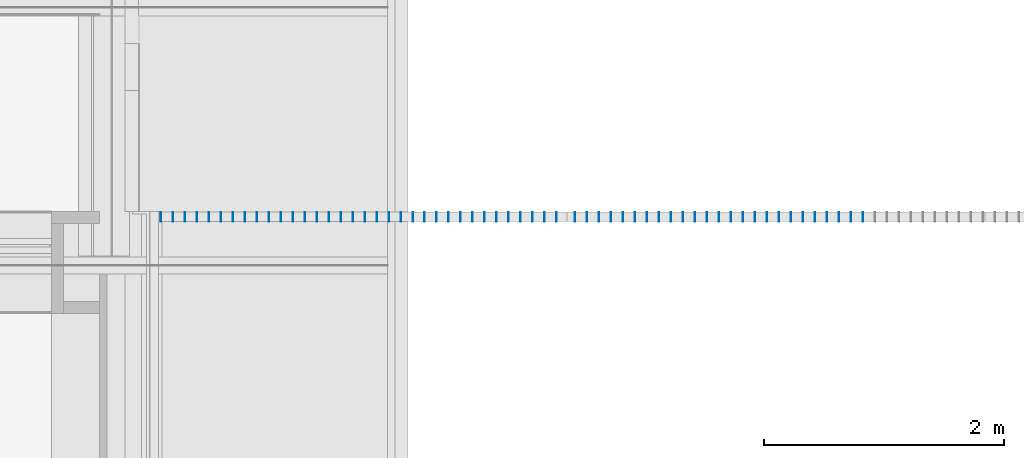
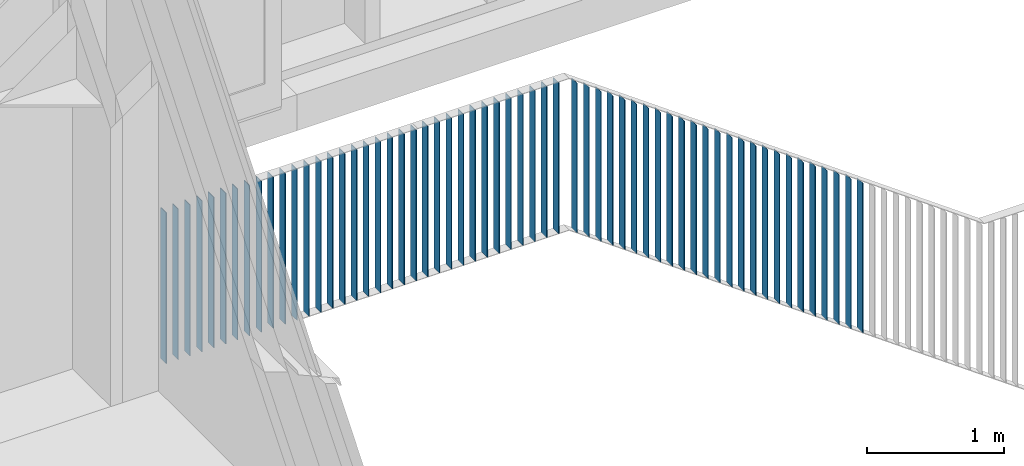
# One storey, part 1 of 260: 59 members, 1 element without a shape of its own.
"""IFC2X3 building model written with IfcOpenShell, lengths in millimetres."""

from ifc_helpers import new_model, entity, si_unit, converted_unit, derived_unit, money_unit, direction, frame, origin_with_axes, place, context, subcontext, project, spatial, faceted_brep, source, transform, mapped, material, type_object, type_shapes, element, aggregate, save


model = new_model("IFC2X3")

# Units and contexts
model_context = context("Model", 3, precision=0.01, world=origin_with_axes(), true_north=direction((0.0, 1.0)))
plan_context = context("Plan", 3, precision=0.01, world=origin_with_axes(), true_north=direction((0.0, 1.0)))
body_context = subcontext(model_context, "Body", "Model", "MODEL_VIEW")
ifc_project = project(units=[si_unit("LENGTHUNIT", "METRE", prefix="MILLI"), si_unit("AREAUNIT", "SQUARE_METRE"), si_unit("VOLUMEUNIT", "CUBIC_METRE"), converted_unit("PLANEANGLEUNIT", "DEGREE", entity("IfcPlaneAngleMeasure", 0.0174532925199), si_unit("PLANEANGLEUNIT", "RADIAN"), dimensions=[0, 0, 0, 0, 0, 0, 0]), money_unit("EUR"), converted_unit("TIMEUNIT", "Year", entity("IfcTimeMeasure", 31556926.0), si_unit("TIMEUNIT", "SECOND"), dimensions=[0, 0, 1, 0, 0, 0, 0]), si_unit("MASSUNIT", "GRAM", prefix="KILO"), si_unit("THERMODYNAMICTEMPERATUREUNIT", "DEGREE_CELSIUS"), si_unit("LUMINOUSINTENSITYUNIT", "LUMEN"), si_unit("ENERGYUNIT", "JOULE", prefix="MEGA"), derived_unit("THERMALCONDUCTANCEUNIT", [(si_unit("POWERUNIT", "WATT"), 1), (si_unit("LENGTHUNIT", "METRE"), -1), (si_unit("THERMODYNAMICTEMPERATUREUNIT", "KELVIN"), -1)]), derived_unit("SPECIFICHEATCAPACITYUNIT", [(si_unit("ENERGYUNIT", "JOULE"), 1), (si_unit("MASSUNIT", "GRAM", prefix="KILO"), -1), (si_unit("THERMODYNAMICTEMPERATUREUNIT", "KELVIN"), -1)]), derived_unit("MASSDENSITYUNIT", [(si_unit("MASSUNIT", "GRAM", prefix="KILO"), 1), (si_unit("VOLUMEUNIT", "CUBIC_METRE"), -1)])], contexts=[model_context, plan_context])

# Site, building, storey
site_placement = place(None, origin_with_axes())
site = spatial("IfcSite", under=ifc_project, at=site_placement, Name="Site", CompositionType="ELEMENT")
building_placement = place(site_placement, origin_with_axes())
building = spatial("IfcBuilding", under=site, at=building_placement, Name="Naam gebouw", CompositionType="ELEMENT")
storey_placement = place(building_placement, frame((0.0, 0.0, 3960.0), z_axis=(0.0, 0.0, 1.0), x_axis=(1.0, 0.0, 0.0)))
storey = spatial("IfcBuildingStorey", under=building, at=storey_placement, Name="verdieping", CompositionType="ELEMENT", Elevation=3960.0)

# Railing, members
railing_type = type_object("IfcRailingType", Name="Railing Type", PredefinedType="NOTDEFINED")
railing_placement = place(storey_placement, frame((45003.0750126, 9730.00004155, -3819.75532512), z_axis=(0.0, 0.0, 1.0), x_axis=(1.0, 0.0, 0.0)))
railing = element("IfcRailing", 1, at=railing_placement, inside=storey, type_object=railing_type, Name="_Reling-x", PredefinedType="NOTDEFINED")
ifc_material = material(Name="Metaal - RVS")
member_type = type_object("IfcMemberType", Name="IfcMember", PredefinedType="MEMBER")
shared_shape_1 = source(origin_with_axes(), body_context, "Body", "Brep", [
    faceted_brep([(40.0, 3.0, 0.0), (-40.0, 3.0, 0.0), (-40.0, 3.0, 1340.0), (40.0, 3.0, 1340.0), (40.0, -3.0, 0.0), (-40.0, -3.0, 0.0), (-40.0, -3.0, 1340.0), (40.0, -3.0, 1340.0)], [[[0, 1, 2, 3]], [[0, 4, 5, 1]], [[1, 5, 6, 2]], [[3, 2, 6, 7]], [[4, 0, 3, 7]], [[5, 4, 7, 6]]]),
])
member_1_placement = place(railing_placement, frame((-48.0749746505, 274.999958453, 3419.75532512), z_axis=(0.0, 0.0, 1.0), x_axis=(1.0, 0.0, 0.0)))
member_1 = element("IfcMember", 2, at=member_1_placement, type_object=member_type, material=ifc_material, Name="_Spijlen-x", ObjectType="MEMBER", context=body_context, shape_type="MappedRepresentation", body=[
    mapped(shared_shape_1, transform((0.0, 0.0, 0.0), x_axis=(0.0, -1.0, 0.0), y_axis=(1.0, 0.0, 0.0), z_axis=(0.0, 0.0, 1.0))),
])
member_2_placement = place(railing_placement, frame((51.9250253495, 274.999958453, 3419.75532512), z_axis=(0.0, 0.0, 1.0), x_axis=(1.0, 0.0, 0.0)))
member_2 = element("IfcMember", 3, at=member_2_placement, type_object=member_type, material=ifc_material, Name="_Spijlen-x", ObjectType="MEMBER", context=body_context, shape_type="MappedRepresentation", body=[
    mapped(shared_shape_1, transform((0.0, 0.0, 0.0), x_axis=(0.0, -1.0, 0.0), y_axis=(1.0, 0.0, 0.0), z_axis=(0.0, 0.0, 1.0))),
])
member_3_placement = place(railing_placement, frame((151.92502535, 274.999958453, 3419.75532512), z_axis=(0.0, 0.0, 1.0), x_axis=(1.0, 0.0, 0.0)))
member_3 = element("IfcMember", 4, at=member_3_placement, type_object=member_type, material=ifc_material, Name="_Spijlen-x", ObjectType="MEMBER", context=body_context, shape_type="MappedRepresentation", body=[
    mapped(shared_shape_1, transform((0.0, 0.0, 0.0), x_axis=(0.0, -1.0, 0.0), y_axis=(1.0, 0.0, 0.0), z_axis=(0.0, 0.0, 1.0))),
])
member_4_placement = place(railing_placement, frame((251.92502535, 274.999958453, 3419.75532512), z_axis=(0.0, 0.0, 1.0), x_axis=(1.0, 0.0, 0.0)))
member_4 = element("IfcMember", 5, at=member_4_placement, type_object=member_type, material=ifc_material, Name="_Spijlen-x", ObjectType="MEMBER", context=body_context, shape_type="MappedRepresentation", body=[
    mapped(shared_shape_1, transform((0.0, 0.0, 0.0), x_axis=(0.0, -1.0, 0.0), y_axis=(1.0, 0.0, 0.0), z_axis=(0.0, 0.0, 1.0))),
])
member_5_placement = place(railing_placement, frame((351.92502535, 274.999958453, 3419.75532512), z_axis=(0.0, 0.0, 1.0), x_axis=(1.0, 0.0, 0.0)))
member_5 = element("IfcMember", 6, at=member_5_placement, type_object=member_type, material=ifc_material, Name="_Spijlen-x", ObjectType="MEMBER", context=body_context, shape_type="MappedRepresentation", body=[
    mapped(shared_shape_1, transform((0.0, 0.0, 0.0), x_axis=(0.0, -1.0, 0.0), y_axis=(1.0, 0.0, 0.0), z_axis=(0.0, 0.0, 1.0))),
])
member_6_placement = place(railing_placement, frame((451.92502535, 274.999958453, 3419.75532512), z_axis=(0.0, 0.0, 1.0), x_axis=(1.0, 0.0, 0.0)))
member_6 = element("IfcMember", 7, at=member_6_placement, type_object=member_type, material=ifc_material, Name="_Spijlen-x", ObjectType="MEMBER", context=body_context, shape_type="MappedRepresentation", body=[
    mapped(shared_shape_1, transform((0.0, 0.0, 0.0), x_axis=(0.0, -1.0, 0.0), y_axis=(1.0, 0.0, 0.0), z_axis=(0.0, 0.0, 1.0))),
])
member_7_placement = place(railing_placement, frame((551.92502535, 274.999958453, 3419.75532512), z_axis=(0.0, 0.0, 1.0), x_axis=(1.0, 0.0, 0.0)))
member_7 = element("IfcMember", 8, at=member_7_placement, type_object=member_type, material=ifc_material, Name="_Spijlen-x", ObjectType="MEMBER", context=body_context, shape_type="MappedRepresentation", body=[
    mapped(shared_shape_1, transform((0.0, 0.0, 0.0), x_axis=(0.0, -1.0, 0.0), y_axis=(1.0, 0.0, 0.0), z_axis=(0.0, 0.0, 1.0))),
])
member_8_placement = place(railing_placement, frame((651.92502535, 274.999958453, 3419.75532512), z_axis=(0.0, 0.0, 1.0), x_axis=(1.0, 0.0, 0.0)))
member_8 = element("IfcMember", 9, at=member_8_placement, type_object=member_type, material=ifc_material, Name="_Spijlen-x", ObjectType="MEMBER", context=body_context, shape_type="MappedRepresentation", body=[
    mapped(shared_shape_1, transform((0.0, 0.0, 0.0), x_axis=(0.0, -1.0, 0.0), y_axis=(1.0, 0.0, 0.0), z_axis=(0.0, 0.0, 1.0))),
])
member_9_placement = place(railing_placement, frame((751.92502535, 274.999958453, 3419.75532512), z_axis=(0.0, 0.0, 1.0), x_axis=(1.0, 0.0, 0.0)))
member_9 = element("IfcMember", 10, at=member_9_placement, type_object=member_type, material=ifc_material, Name="_Spijlen-x", ObjectType="MEMBER", context=body_context, shape_type="MappedRepresentation", body=[
    mapped(shared_shape_1, transform((0.0, 0.0, 0.0), x_axis=(0.0, -1.0, 0.0), y_axis=(1.0, 0.0, 0.0), z_axis=(0.0, 0.0, 1.0))),
])
member_10_placement = place(railing_placement, frame((851.92502535, 274.999958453, 3419.75532512), z_axis=(0.0, 0.0, 1.0), x_axis=(1.0, 0.0, 0.0)))
member_10 = element("IfcMember", 11, at=member_10_placement, type_object=member_type, material=ifc_material, Name="_Spijlen-x", ObjectType="MEMBER", context=body_context, shape_type="MappedRepresentation", body=[
    mapped(shared_shape_1, transform((0.0, 0.0, 0.0), x_axis=(0.0, -1.0, 0.0), y_axis=(1.0, 0.0, 0.0), z_axis=(0.0, 0.0, 1.0))),
])
member_11_placement = place(railing_placement, frame((951.92502535, 274.999958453, 3419.75532512), z_axis=(0.0, 0.0, 1.0), x_axis=(1.0, 0.0, 0.0)))
member_11 = element("IfcMember", 12, at=member_11_placement, type_object=member_type, material=ifc_material, Name="_Spijlen-x", ObjectType="MEMBER", context=body_context, shape_type="MappedRepresentation", body=[
    mapped(shared_shape_1, transform((0.0, 0.0, 0.0), x_axis=(0.0, -1.0, 0.0), y_axis=(1.0, 0.0, 0.0), z_axis=(0.0, 0.0, 1.0))),
])
member_12_placement = place(railing_placement, frame((1051.92502535, 274.999958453, 3419.75532512), z_axis=(0.0, 0.0, 1.0), x_axis=(1.0, 0.0, 0.0)))
member_12 = element("IfcMember", 13, at=member_12_placement, type_object=member_type, material=ifc_material, Name="_Spijlen-x", ObjectType="MEMBER", context=body_context, shape_type="MappedRepresentation", body=[
    mapped(shared_shape_1, transform((0.0, 0.0, 0.0), x_axis=(0.0, -1.0, 0.0), y_axis=(1.0, 0.0, 0.0), z_axis=(0.0, 0.0, 1.0))),
])
member_13_placement = place(railing_placement, frame((1151.92502535, 274.999958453, 3419.75532512), z_axis=(0.0, 0.0, 1.0), x_axis=(1.0, 0.0, 0.0)))
member_13 = element("IfcMember", 14, at=member_13_placement, type_object=member_type, material=ifc_material, Name="_Spijlen-x", ObjectType="MEMBER", context=body_context, shape_type="MappedRepresentation", body=[
    mapped(shared_shape_1, transform((0.0, 0.0, 0.0), x_axis=(0.0, -1.0, 0.0), y_axis=(1.0, 0.0, 0.0), z_axis=(0.0, 0.0, 1.0))),
])
member_14_placement = place(railing_placement, frame((1251.92502535, 274.999958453, 3419.75532512), z_axis=(0.0, 0.0, 1.0), x_axis=(1.0, 0.0, 0.0)))
member_14 = element("IfcMember", 15, at=member_14_placement, type_object=member_type, material=ifc_material, Name="_Spijlen-x", ObjectType="MEMBER", context=body_context, shape_type="MappedRepresentation", body=[
    mapped(shared_shape_1, transform((0.0, 0.0, 0.0), x_axis=(0.0, -1.0, 0.0), y_axis=(1.0, 0.0, 0.0), z_axis=(0.0, 0.0, 1.0))),
])
member_15_placement = place(railing_placement, frame((1351.92502535, 274.999958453, 3419.75532512), z_axis=(0.0, 0.0, 1.0), x_axis=(1.0, 0.0, 0.0)))
member_15 = element("IfcMember", 16, at=member_15_placement, type_object=member_type, material=ifc_material, Name="_Spijlen-x", ObjectType="MEMBER", context=body_context, shape_type="MappedRepresentation", body=[
    mapped(shared_shape_1, transform((0.0, 0.0, 0.0), x_axis=(0.0, -1.0, 0.0), y_axis=(1.0, 0.0, 0.0), z_axis=(0.0, 0.0, 1.0))),
])
member_16_placement = place(railing_placement, frame((1451.92502535, 274.999958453, 3419.75532512), z_axis=(0.0, 0.0, 1.0), x_axis=(1.0, 0.0, 0.0)))
member_16 = element("IfcMember", 17, at=member_16_placement, type_object=member_type, material=ifc_material, Name="_Spijlen-x", ObjectType="MEMBER", context=body_context, shape_type="MappedRepresentation", body=[
    mapped(shared_shape_1, transform((0.0, 0.0, 0.0), x_axis=(0.0, -1.0, 0.0), y_axis=(1.0, 0.0, 0.0), z_axis=(0.0, 0.0, 1.0))),
])
member_17_placement = place(railing_placement, frame((1551.92502535, 274.999958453, 3419.75532512), z_axis=(0.0, 0.0, 1.0), x_axis=(1.0, 0.0, 0.0)))
member_17 = element("IfcMember", 18, at=member_17_placement, type_object=member_type, material=ifc_material, Name="_Spijlen-x", ObjectType="MEMBER", context=body_context, shape_type="MappedRepresentation", body=[
    mapped(shared_shape_1, transform((0.0, 0.0, 0.0), x_axis=(0.0, -1.0, 0.0), y_axis=(1.0, 0.0, 0.0), z_axis=(0.0, 0.0, 1.0))),
])
member_18_placement = place(railing_placement, frame((1651.92502535, 274.999958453, 3419.75532512), z_axis=(0.0, 0.0, 1.0), x_axis=(1.0, 0.0, 0.0)))
member_18 = element("IfcMember", 19, at=member_18_placement, type_object=member_type, material=ifc_material, Name="_Spijlen-x", ObjectType="MEMBER", context=body_context, shape_type="MappedRepresentation", body=[
    mapped(shared_shape_1, transform((0.0, 0.0, 0.0), x_axis=(0.0, -1.0, 0.0), y_axis=(1.0, 0.0, 0.0), z_axis=(0.0, 0.0, 1.0))),
])
member_19_placement = place(railing_placement, frame((1751.92502535, 274.999958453, 3419.75532512), z_axis=(0.0, 0.0, 1.0), x_axis=(1.0, 0.0, 0.0)))
member_19 = element("IfcMember", 20, at=member_19_placement, type_object=member_type, material=ifc_material, Name="_Spijlen-x", ObjectType="MEMBER", context=body_context, shape_type="MappedRepresentation", body=[
    mapped(shared_shape_1, transform((0.0, 0.0, 0.0), x_axis=(0.0, -1.0, 0.0), y_axis=(1.0, 0.0, 0.0), z_axis=(0.0, 0.0, 1.0))),
])
member_20_placement = place(railing_placement, frame((1851.92502535, 274.999958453, 3419.75532512), z_axis=(0.0, 0.0, 1.0), x_axis=(1.0, 0.0, 0.0)))
member_20 = element("IfcMember", 21, at=member_20_placement, type_object=member_type, material=ifc_material, Name="_Spijlen-x", ObjectType="MEMBER", context=body_context, shape_type="MappedRepresentation", body=[
    mapped(shared_shape_1, transform((0.0, 0.0, 0.0), x_axis=(0.0, -1.0, 0.0), y_axis=(1.0, 0.0, 0.0), z_axis=(0.0, 0.0, 1.0))),
])
member_21_placement = place(railing_placement, frame((1951.92502535, 274.999958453, 3419.75532512), z_axis=(0.0, 0.0, 1.0), x_axis=(1.0, 0.0, 0.0)))
member_21 = element("IfcMember", 22, at=member_21_placement, type_object=member_type, material=ifc_material, Name="_Spijlen-x", ObjectType="MEMBER", context=body_context, shape_type="MappedRepresentation", body=[
    mapped(shared_shape_1, transform((0.0, 0.0, 0.0), x_axis=(0.0, -1.0, 0.0), y_axis=(1.0, 0.0, 0.0), z_axis=(0.0, 0.0, 1.0))),
])
member_22_placement = place(railing_placement, frame((2051.92502535, 274.999958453, 3419.75532512), z_axis=(0.0, 0.0, 1.0), x_axis=(1.0, 0.0, 0.0)))
member_22 = element("IfcMember", 23, at=member_22_placement, type_object=member_type, material=ifc_material, Name="_Spijlen-x", ObjectType="MEMBER", context=body_context, shape_type="MappedRepresentation", body=[
    mapped(shared_shape_1, transform((0.0, 0.0, 0.0), x_axis=(0.0, -1.0, 0.0), y_axis=(1.0, 0.0, 0.0), z_axis=(0.0, 0.0, 1.0))),
])
member_23_placement = place(railing_placement, frame((2149.03930402, 274.999958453, 3419.75532512), z_axis=(0.0, 0.0, 1.0), x_axis=(1.0, 0.0, 0.0)))
member_23 = element("IfcMember", 24, at=member_23_placement, type_object=member_type, material=ifc_material, Name="_Spijlen-x", ObjectType="MEMBER", context=body_context, shape_type="MappedRepresentation", body=[
    mapped(shared_shape_1, transform((0.0, 0.0, 0.0), x_axis=(0.0, -1.0, 0.0), y_axis=(1.0, 0.0, 0.0), z_axis=(0.0, 0.0, 1.0))),
])
member_24_placement = place(railing_placement, frame((2249.03930402, 274.999958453, 3419.75532512), z_axis=(0.0, 0.0, 1.0), x_axis=(1.0, 0.0, 0.0)))
member_24 = element("IfcMember", 25, at=member_24_placement, type_object=member_type, material=ifc_material, Name="_Spijlen-x", ObjectType="MEMBER", context=body_context, shape_type="MappedRepresentation", body=[
    mapped(shared_shape_1, transform((0.0, 0.0, 0.0), x_axis=(0.0, -1.0, 0.0), y_axis=(1.0, 0.0, 0.0), z_axis=(0.0, 0.0, 1.0))),
])
member_25_placement = place(railing_placement, frame((2349.03930402, 274.999958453, 3419.75532512), z_axis=(0.0, 0.0, 1.0), x_axis=(1.0, 0.0, 0.0)))
member_25 = element("IfcMember", 26, at=member_25_placement, type_object=member_type, material=ifc_material, Name="_Spijlen-x", ObjectType="MEMBER", context=body_context, shape_type="MappedRepresentation", body=[
    mapped(shared_shape_1, transform((0.0, 0.0, 0.0), x_axis=(0.0, -1.0, 0.0), y_axis=(1.0, 0.0, 0.0), z_axis=(0.0, 0.0, 1.0))),
])
member_26_placement = place(railing_placement, frame((2449.03930402, 274.999958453, 3419.75532512), z_axis=(0.0, 0.0, 1.0), x_axis=(1.0, 0.0, 0.0)))
member_26 = element("IfcMember", 27, at=member_26_placement, type_object=member_type, material=ifc_material, Name="_Spijlen-x", ObjectType="MEMBER", context=body_context, shape_type="MappedRepresentation", body=[
    mapped(shared_shape_1, transform((0.0, 0.0, 0.0), x_axis=(0.0, -1.0, 0.0), y_axis=(1.0, 0.0, 0.0), z_axis=(0.0, 0.0, 1.0))),
])
member_27_placement = place(railing_placement, frame((2549.03930402, 274.999958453, 3419.75532512), z_axis=(0.0, 0.0, 1.0), x_axis=(1.0, 0.0, 0.0)))
member_27 = element("IfcMember", 28, at=member_27_placement, type_object=member_type, material=ifc_material, Name="_Spijlen-x", ObjectType="MEMBER", context=body_context, shape_type="MappedRepresentation", body=[
    mapped(shared_shape_1, transform((0.0, 0.0, 0.0), x_axis=(0.0, -1.0, 0.0), y_axis=(1.0, 0.0, 0.0), z_axis=(0.0, 0.0, 1.0))),
])
member_28_placement = place(railing_placement, frame((2649.03930402, 274.999958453, 3419.75532512), z_axis=(0.0, 0.0, 1.0), x_axis=(1.0, 0.0, 0.0)))
member_28 = element("IfcMember", 29, at=member_28_placement, type_object=member_type, material=ifc_material, Name="_Spijlen-x", ObjectType="MEMBER", context=body_context, shape_type="MappedRepresentation", body=[
    mapped(shared_shape_1, transform((0.0, 0.0, 0.0), x_axis=(0.0, -1.0, 0.0), y_axis=(1.0, 0.0, 0.0), z_axis=(0.0, 0.0, 1.0))),
])
member_29_placement = place(railing_placement, frame((2749.03930402, 274.999958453, 3419.75532512), z_axis=(0.0, 0.0, 1.0), x_axis=(1.0, 0.0, 0.0)))
member_29 = element("IfcMember", 30, at=member_29_placement, type_object=member_type, material=ifc_material, Name="_Spijlen-x", ObjectType="MEMBER", context=body_context, shape_type="MappedRepresentation", body=[
    mapped(shared_shape_1, transform((0.0, 0.0, 0.0), x_axis=(0.0, -1.0, 0.0), y_axis=(1.0, 0.0, 0.0), z_axis=(0.0, 0.0, 1.0))),
])
member_30_placement = place(railing_placement, frame((2849.03930402, 274.999958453, 3419.75532512), z_axis=(0.0, 0.0, 1.0), x_axis=(1.0, 0.0, 0.0)))
member_30 = element("IfcMember", 31, at=member_30_placement, type_object=member_type, material=ifc_material, Name="_Spijlen-x", ObjectType="MEMBER", context=body_context, shape_type="MappedRepresentation", body=[
    mapped(shared_shape_1, transform((0.0, 0.0, 0.0), x_axis=(0.0, -1.0, 0.0), y_axis=(1.0, 0.0, 0.0), z_axis=(0.0, 0.0, 1.0))),
])
member_31_placement = place(railing_placement, frame((2949.03930402, 274.999958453, 3419.75532512), z_axis=(0.0, 0.0, 1.0), x_axis=(1.0, 0.0, 0.0)))
member_31 = element("IfcMember", 32, at=member_31_placement, type_object=member_type, material=ifc_material, Name="_Spijlen-x", ObjectType="MEMBER", context=body_context, shape_type="MappedRepresentation", body=[
    mapped(shared_shape_1, transform((0.0, 0.0, 0.0), x_axis=(0.0, -1.0, 0.0), y_axis=(1.0, 0.0, 0.0), z_axis=(0.0, 0.0, 1.0))),
])
member_32_placement = place(railing_placement, frame((3049.03930402, 274.999958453, 3419.75532512), z_axis=(0.0, 0.0, 1.0), x_axis=(1.0, 0.0, 0.0)))
member_32 = element("IfcMember", 33, at=member_32_placement, type_object=member_type, material=ifc_material, Name="_Spijlen-x", ObjectType="MEMBER", context=body_context, shape_type="MappedRepresentation", body=[
    mapped(shared_shape_1, transform((0.0, 0.0, 0.0), x_axis=(0.0, -1.0, 0.0), y_axis=(1.0, 0.0, 0.0), z_axis=(0.0, 0.0, 1.0))),
])
member_33_placement = place(railing_placement, frame((3149.03930402, 274.999958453, 3419.75532512), z_axis=(0.0, 0.0, 1.0), x_axis=(1.0, 0.0, 0.0)))
member_33 = element("IfcMember", 34, at=member_33_placement, type_object=member_type, material=ifc_material, Name="_Spijlen-x", ObjectType="MEMBER", context=body_context, shape_type="MappedRepresentation", body=[
    mapped(shared_shape_1, transform((0.0, 0.0, 0.0), x_axis=(0.0, -1.0, 0.0), y_axis=(1.0, 0.0, 0.0), z_axis=(0.0, 0.0, 1.0))),
])
member_34_placement = place(railing_placement, frame((3249.03930402, 274.999958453, 3419.75532512), z_axis=(0.0, 0.0, 1.0), x_axis=(1.0, 0.0, 0.0)))
member_34 = element("IfcMember", 35, at=member_34_placement, type_object=member_type, material=ifc_material, Name="_Spijlen-x", ObjectType="MEMBER", context=body_context, shape_type="MappedRepresentation", body=[
    mapped(shared_shape_1, transform((0.0, 0.0, 0.0), x_axis=(0.0, -1.0, 0.0), y_axis=(1.0, 0.0, 0.0), z_axis=(0.0, 0.0, 1.0))),
])
shared_shape_2 = source(origin_with_axes(), body_context, "Body", "Brep", [
    faceted_brep([(40.0, 3.0, -2.16), (-40.0, 3.0, -2.16), (-40.0, 3.0, 1328.50847907), (40.0, 3.0, 1328.50847907), (40.0, -3.0, 2.16), (-40.0, -3.0, 2.16), (-40.0, -3.0, 1332.82847907), (40.0, -3.0, 1332.82847907)], [[[0, 1, 2, 3]], [[0, 4, 5, 1]], [[1, 5, 6, 2]], [[3, 2, 6, 7]], [[4, 0, 3, 7]], [[5, 4, 7, 6]]]),
])
type_shapes(member_type, [shared_shape_1, shared_shape_2])
member_35_placement = place(railing_placement, frame((3404.03925297, 274.999958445, 3370.87766256), z_axis=(0.0, 0.0, 1.0), x_axis=(1.0, 0.0, 0.0)))
member_35 = element("IfcMember", 36, at=member_35_placement, type_object=member_type, material=ifc_material, Name="_Spijlen-x", ObjectType="MEMBER", context=body_context, shape_type="MappedRepresentation", body=[
    mapped(shared_shape_2, transform((0.0, 0.0, 0.0), x_axis=(-1.19028281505e-10, -1.0, 0.0), y_axis=(1.0, -1.19028281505e-10, 0.0), z_axis=(0.0, 0.0, 1.0))),
])
member_36_placement = place(railing_placement, frame((3504.03925297, 274.999958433, 3298.87766256), z_axis=(0.0, 0.0, 1.0), x_axis=(1.0, 0.0, 0.0)))
member_36 = element("IfcMember", 37, at=member_36_placement, type_object=member_type, material=ifc_material, Name="_Spijlen-x", ObjectType="MEMBER", context=body_context, shape_type="MappedRepresentation", body=[
    mapped(shared_shape_2, transform((0.0, 0.0, 0.0), x_axis=(-1.19028281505e-10, -1.0, 0.0), y_axis=(1.0, -1.19028281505e-10, 0.0), z_axis=(0.0, 0.0, 1.0))),
])
member_37_placement = place(railing_placement, frame((3604.03925297, 274.999958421, 3226.87766256), z_axis=(0.0, 0.0, 1.0), x_axis=(1.0, 0.0, 0.0)))
member_37 = element("IfcMember", 38, at=member_37_placement, type_object=member_type, material=ifc_material, Name="_Spijlen-x", ObjectType="MEMBER", context=body_context, shape_type="MappedRepresentation", body=[
    mapped(shared_shape_2, transform((0.0, 0.0, 0.0), x_axis=(-1.19028281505e-10, -1.0, 0.0), y_axis=(1.0, -1.19028281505e-10, 0.0), z_axis=(0.0, 0.0, 1.0))),
])
member_38_placement = place(railing_placement, frame((3704.03925297, 274.999958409, 3154.87766256), z_axis=(0.0, 0.0, 1.0), x_axis=(1.0, 0.0, 0.0)))
member_38 = element("IfcMember", 39, at=member_38_placement, type_object=member_type, material=ifc_material, Name="_Spijlen-x", ObjectType="MEMBER", context=body_context, shape_type="MappedRepresentation", body=[
    mapped(shared_shape_2, transform((0.0, 0.0, 0.0), x_axis=(-1.19028281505e-10, -1.0, 0.0), y_axis=(1.0, -1.19028281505e-10, 0.0), z_axis=(0.0, 0.0, 1.0))),
])
member_39_placement = place(railing_placement, frame((3804.03925297, 274.999958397, 3082.87766256), z_axis=(0.0, 0.0, 1.0), x_axis=(1.0, 0.0, 0.0)))
member_39 = element("IfcMember", 40, at=member_39_placement, type_object=member_type, material=ifc_material, Name="_Spijlen-x", ObjectType="MEMBER", context=body_context, shape_type="MappedRepresentation", body=[
    mapped(shared_shape_2, transform((0.0, 0.0, 0.0), x_axis=(-1.19028281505e-10, -1.0, 0.0), y_axis=(1.0, -1.19028281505e-10, 0.0), z_axis=(0.0, 0.0, 1.0))),
])
member_40_placement = place(railing_placement, frame((3904.03925297, 274.999958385, 3010.87766256), z_axis=(0.0, 0.0, 1.0), x_axis=(1.0, 0.0, 0.0)))
member_40 = element("IfcMember", 41, at=member_40_placement, type_object=member_type, material=ifc_material, Name="_Spijlen-x", ObjectType="MEMBER", context=body_context, shape_type="MappedRepresentation", body=[
    mapped(shared_shape_2, transform((0.0, 0.0, 0.0), x_axis=(-1.19028281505e-10, -1.0, 0.0), y_axis=(1.0, -1.19028281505e-10, 0.0), z_axis=(0.0, 0.0, 1.0))),
])
member_41_placement = place(railing_placement, frame((4004.03925297, 274.999958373, 2938.87766256), z_axis=(0.0, 0.0, 1.0), x_axis=(1.0, 0.0, 0.0)))
member_41 = element("IfcMember", 42, at=member_41_placement, type_object=member_type, material=ifc_material, Name="_Spijlen-x", ObjectType="MEMBER", context=body_context, shape_type="MappedRepresentation", body=[
    mapped(shared_shape_2, transform((0.0, 0.0, 0.0), x_axis=(-1.19028281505e-10, -1.0, 0.0), y_axis=(1.0, -1.19028281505e-10, 0.0), z_axis=(0.0, 0.0, 1.0))),
])
member_42_placement = place(railing_placement, frame((4104.03925297, 274.999958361, 2866.87766256), z_axis=(0.0, 0.0, 1.0), x_axis=(1.0, 0.0, 0.0)))
member_42 = element("IfcMember", 43, at=member_42_placement, type_object=member_type, material=ifc_material, Name="_Spijlen-x", ObjectType="MEMBER", context=body_context, shape_type="MappedRepresentation", body=[
    mapped(shared_shape_2, transform((0.0, 0.0, 0.0), x_axis=(-1.19028281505e-10, -1.0, 0.0), y_axis=(1.0, -1.19028281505e-10, 0.0), z_axis=(0.0, 0.0, 1.0))),
])
member_43_placement = place(railing_placement, frame((4204.03925297, 274.99995835, 2794.87766256), z_axis=(0.0, 0.0, 1.0), x_axis=(1.0, 0.0, 0.0)))
member_43 = element("IfcMember", 44, at=member_43_placement, type_object=member_type, material=ifc_material, Name="_Spijlen-x", ObjectType="MEMBER", context=body_context, shape_type="MappedRepresentation", body=[
    mapped(shared_shape_2, transform((0.0, 0.0, 0.0), x_axis=(-1.19028281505e-10, -1.0, 0.0), y_axis=(1.0, -1.19028281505e-10, 0.0), z_axis=(0.0, 0.0, 1.0))),
])
member_44_placement = place(railing_placement, frame((4304.03925297, 274.999958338, 2722.87766256), z_axis=(0.0, 0.0, 1.0), x_axis=(1.0, 0.0, 0.0)))
member_44 = element("IfcMember", 45, at=member_44_placement, type_object=member_type, material=ifc_material, Name="_Spijlen-x", ObjectType="MEMBER", context=body_context, shape_type="MappedRepresentation", body=[
    mapped(shared_shape_2, transform((0.0, 0.0, 0.0), x_axis=(-1.19028281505e-10, -1.0, 0.0), y_axis=(1.0, -1.19028281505e-10, 0.0), z_axis=(0.0, 0.0, 1.0))),
])
member_45_placement = place(railing_placement, frame((4404.03925297, 274.999958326, 2650.87766256), z_axis=(0.0, 0.0, 1.0), x_axis=(1.0, 0.0, 0.0)))
member_45 = element("IfcMember", 46, at=member_45_placement, type_object=member_type, material=ifc_material, Name="_Spijlen-x", ObjectType="MEMBER", context=body_context, shape_type="MappedRepresentation", body=[
    mapped(shared_shape_2, transform((0.0, 0.0, 0.0), x_axis=(-1.19028281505e-10, -1.0, 0.0), y_axis=(1.0, -1.19028281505e-10, 0.0), z_axis=(0.0, 0.0, 1.0))),
])
member_46_placement = place(railing_placement, frame((4504.03925297, 274.999958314, 2578.87766256), z_axis=(0.0, 0.0, 1.0), x_axis=(1.0, 0.0, 0.0)))
member_46 = element("IfcMember", 47, at=member_46_placement, type_object=member_type, material=ifc_material, Name="_Spijlen-x", ObjectType="MEMBER", context=body_context, shape_type="MappedRepresentation", body=[
    mapped(shared_shape_2, transform((0.0, 0.0, 0.0), x_axis=(-1.19028281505e-10, -1.0, 0.0), y_axis=(1.0, -1.19028281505e-10, 0.0), z_axis=(0.0, 0.0, 1.0))),
])
member_47_placement = place(railing_placement, frame((4604.03925297, 274.999958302, 2506.87766256), z_axis=(0.0, 0.0, 1.0), x_axis=(1.0, 0.0, 0.0)))
member_47 = element("IfcMember", 48, at=member_47_placement, type_object=member_type, material=ifc_material, Name="_Spijlen-x", ObjectType="MEMBER", context=body_context, shape_type="MappedRepresentation", body=[
    mapped(shared_shape_2, transform((0.0, 0.0, 0.0), x_axis=(-1.19028281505e-10, -1.0, 0.0), y_axis=(1.0, -1.19028281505e-10, 0.0), z_axis=(0.0, 0.0, 1.0))),
])
member_48_placement = place(railing_placement, frame((4704.03925297, 274.99995829, 2434.87766256), z_axis=(0.0, 0.0, 1.0), x_axis=(1.0, 0.0, 0.0)))
member_48 = element("IfcMember", 49, at=member_48_placement, type_object=member_type, material=ifc_material, Name="_Spijlen-x", ObjectType="MEMBER", context=body_context, shape_type="MappedRepresentation", body=[
    mapped(shared_shape_2, transform((0.0, 0.0, 0.0), x_axis=(-1.19028281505e-10, -1.0, 0.0), y_axis=(1.0, -1.19028281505e-10, 0.0), z_axis=(0.0, 0.0, 1.0))),
])
member_49_placement = place(railing_placement, frame((4804.03925297, 274.999958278, 2362.87766256), z_axis=(0.0, 0.0, 1.0), x_axis=(1.0, 0.0, 0.0)))
member_49 = element("IfcMember", 50, at=member_49_placement, type_object=member_type, material=ifc_material, Name="_Spijlen-x", ObjectType="MEMBER", context=body_context, shape_type="MappedRepresentation", body=[
    mapped(shared_shape_2, transform((0.0, 0.0, 0.0), x_axis=(-1.19028281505e-10, -1.0, 0.0), y_axis=(1.0, -1.19028281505e-10, 0.0), z_axis=(0.0, 0.0, 1.0))),
])
member_50_placement = place(railing_placement, frame((4904.03925297, 274.999958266, 2290.87766256), z_axis=(0.0, 0.0, 1.0), x_axis=(1.0, 0.0, 0.0)))
member_50 = element("IfcMember", 51, at=member_50_placement, type_object=member_type, material=ifc_material, Name="_Spijlen-x", ObjectType="MEMBER", context=body_context, shape_type="MappedRepresentation", body=[
    mapped(shared_shape_2, transform((0.0, 0.0, 0.0), x_axis=(-1.19028281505e-10, -1.0, 0.0), y_axis=(1.0, -1.19028281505e-10, 0.0), z_axis=(0.0, 0.0, 1.0))),
])
member_51_placement = place(railing_placement, frame((5004.03925297, 274.999958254, 2218.87766256), z_axis=(0.0, 0.0, 1.0), x_axis=(1.0, 0.0, 0.0)))
member_51 = element("IfcMember", 52, at=member_51_placement, type_object=member_type, material=ifc_material, Name="_Spijlen-x", ObjectType="MEMBER", context=body_context, shape_type="MappedRepresentation", body=[
    mapped(shared_shape_2, transform((0.0, 0.0, 0.0), x_axis=(-1.19028281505e-10, -1.0, 0.0), y_axis=(1.0, -1.19028281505e-10, 0.0), z_axis=(0.0, 0.0, 1.0))),
])
member_52_placement = place(railing_placement, frame((5104.03925297, 274.999958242, 2146.87766256), z_axis=(0.0, 0.0, 1.0), x_axis=(1.0, 0.0, 0.0)))
member_52 = element("IfcMember", 53, at=member_52_placement, type_object=member_type, material=ifc_material, Name="_Spijlen-x", ObjectType="MEMBER", context=body_context, shape_type="MappedRepresentation", body=[
    mapped(shared_shape_2, transform((0.0, 0.0, 0.0), x_axis=(-1.19028281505e-10, -1.0, 0.0), y_axis=(1.0, -1.19028281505e-10, 0.0), z_axis=(0.0, 0.0, 1.0))),
])
member_53_placement = place(railing_placement, frame((5204.03925297, 274.999958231, 2074.87766256), z_axis=(0.0, 0.0, 1.0), x_axis=(1.0, 0.0, 0.0)))
member_53 = element("IfcMember", 54, at=member_53_placement, type_object=member_type, material=ifc_material, Name="_Spijlen-x", ObjectType="MEMBER", context=body_context, shape_type="MappedRepresentation", body=[
    mapped(shared_shape_2, transform((0.0, 0.0, 0.0), x_axis=(-1.19030057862e-10, -1.0, 0.0), y_axis=(1.0, -1.19030057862e-10, 0.0), z_axis=(0.0, 0.0, 1.0))),
])
member_54_placement = place(railing_placement, frame((5304.03925297, 274.999958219, 2002.87766256), z_axis=(0.0, 0.0, 1.0), x_axis=(1.0, 0.0, 0.0)))
member_54 = element("IfcMember", 55, at=member_54_placement, type_object=member_type, material=ifc_material, Name="_Spijlen-x", ObjectType="MEMBER", context=body_context, shape_type="MappedRepresentation", body=[
    mapped(shared_shape_2, transform((0.0, 0.0, 0.0), x_axis=(-1.19028281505e-10, -1.0, 0.0), y_axis=(1.0, -1.19028281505e-10, 0.0), z_axis=(0.0, 0.0, 1.0))),
])
member_55_placement = place(railing_placement, frame((5404.03925297, 274.999958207, 1930.87766256), z_axis=(0.0, 0.0, 1.0), x_axis=(1.0, 0.0, 0.0)))
member_55 = element("IfcMember", 56, at=member_55_placement, type_object=member_type, material=ifc_material, Name="_Spijlen-x", ObjectType="MEMBER", context=body_context, shape_type="MappedRepresentation", body=[
    mapped(shared_shape_2, transform((0.0, 0.0, 0.0), x_axis=(-1.19028281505e-10, -1.0, 0.0), y_axis=(1.0, -1.19028281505e-10, 0.0), z_axis=(0.0, 0.0, 1.0))),
])
member_56_placement = place(railing_placement, frame((5504.03925297, 274.999958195, 1858.87766256), z_axis=(0.0, 0.0, 1.0), x_axis=(1.0, 0.0, 0.0)))
member_56 = element("IfcMember", 57, at=member_56_placement, type_object=member_type, material=ifc_material, Name="_Spijlen-x", ObjectType="MEMBER", context=body_context, shape_type="MappedRepresentation", body=[
    mapped(shared_shape_2, transform((0.0, 0.0, 0.0), x_axis=(-1.19028281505e-10, -1.0, 0.0), y_axis=(1.0, -1.19028281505e-10, 0.0), z_axis=(0.0, 0.0, 1.0))),
])
member_57_placement = place(railing_placement, frame((5604.03925297, 274.999958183, 1786.87766256), z_axis=(0.0, 0.0, 1.0), x_axis=(1.0, 0.0, 0.0)))
member_57 = element("IfcMember", 58, at=member_57_placement, type_object=member_type, material=ifc_material, Name="_Spijlen-x", ObjectType="MEMBER", context=body_context, shape_type="MappedRepresentation", body=[
    mapped(shared_shape_2, transform((0.0, 0.0, 0.0), x_axis=(-1.19028281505e-10, -1.0, 0.0), y_axis=(1.0, -1.19028281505e-10, 0.0), z_axis=(0.0, 0.0, 1.0))),
])
member_58_placement = place(railing_placement, frame((5704.03925297, 274.999958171, 1714.87766256), z_axis=(0.0, 0.0, 1.0), x_axis=(1.0, 0.0, 0.0)))
member_58 = element("IfcMember", 59, at=member_58_placement, type_object=member_type, material=ifc_material, Name="_Spijlen-x", ObjectType="MEMBER", context=body_context, shape_type="MappedRepresentation", body=[
    mapped(shared_shape_2, transform((0.0, 0.0, 0.0), x_axis=(-1.19028281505e-10, -1.0, 0.0), y_axis=(1.0, -1.19028281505e-10, 0.0), z_axis=(0.0, 0.0, 1.0))),
])
member_59_placement = place(railing_placement, frame((5804.03925297, 274.999958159, 1642.87766256), z_axis=(0.0, 0.0, 1.0), x_axis=(1.0, 0.0, 0.0)))
member_59 = element("IfcMember", 60, at=member_59_placement, type_object=member_type, material=ifc_material, Name="_Spijlen-x", ObjectType="MEMBER", context=body_context, shape_type="MappedRepresentation", body=[
    mapped(shared_shape_2, transform((0.0, 0.0, 0.0), x_axis=(-1.19028281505e-10, -1.0, 0.0), y_axis=(1.0, -1.19028281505e-10, 0.0), z_axis=(0.0, 0.0, 1.0))),
])
aggregate(railing, [member_1, member_2, member_3, member_4, member_5, member_6, member_7, member_8, member_9, member_10, member_11, member_12, member_13, member_14, member_15, member_16, member_17, member_18, member_19, member_20, member_21, member_22, member_23, member_24, member_25, member_26, member_27, member_28, member_29, member_30, member_31, member_32, member_33, member_34, member_35, member_36, member_37, member_38, member_39, member_40, member_41, member_42, member_43, member_44, member_45, member_46, member_47, member_48, member_49, member_50, member_51, member_52, member_53, member_54, member_55, member_56, member_57, member_58, member_59])

save(model, "model.ifc")
